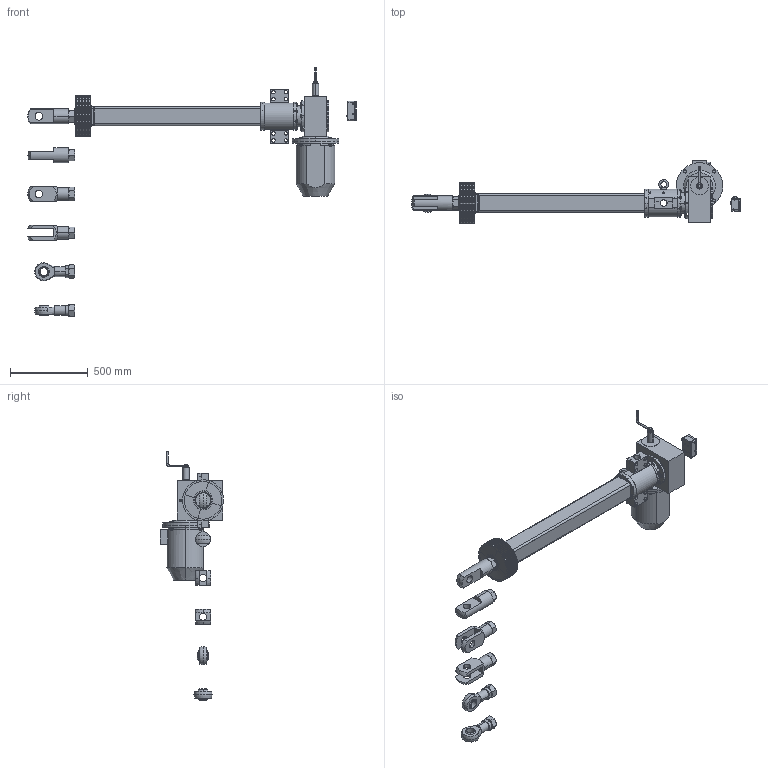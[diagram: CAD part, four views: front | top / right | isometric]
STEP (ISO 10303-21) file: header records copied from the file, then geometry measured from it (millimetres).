
FILE_DESCRIPTION (( 'STEP AP203' ), '1' );
FILE_NAME ('Ì4 10 900.STEP', '2016-12-21T09:06:27', ( '' ), ( '' ), 'SwSTEP 2.0', 'SolidWorks 2012', '' );
FILE_SCHEMA (( 'CONFIG_CONTROL_DESIGN' ));
Length unit declared in the file: millimetre
Products named in the file (9): ﾌ4 10 900; 迕10; 苂10; 迍 10; ﾁﾑﾏ; Ãîôð Ñ4_•®¤600; ﾒ矜 10_憤､ 900; ﾑ4 10 1; ﾌ4 10 矜鈞
Assembly tree (10 placements, depth 2):
  ﾌ4 10 900
    ﾌ4 10 矜鈞
    ﾑ4 10 1
    ﾒ矜 10_憤､ 900
    Ãîôð Ñ4_•®¤600
    ﾁﾑﾏ
    迍 10
    苂10  x2
    迕10  x2
Bounding box: 2116 x 405.76 x 1601 mm (x, y, z)
Volume: 2853844.9 mm3; surface area: 6606493.3 mm2
Topology: 1 solids, 211 shells, 1906 faces, 5216 edges, 3541 vertices
Faces by surface type: plane 759, cylinder 599, cone 414, torus 62, sphere 60, bspline 12
Entity records: 62601 total; most frequent: CARTESIAN_POINT 15144, DIRECTION 10383, ORIENTED_EDGE 8387, EDGE_CURVE 4956, AXIS2_PLACEMENT_3D 4163, VERTEX_POINT 3384, CIRCLE 2328, EDGE_LOOP 2180
